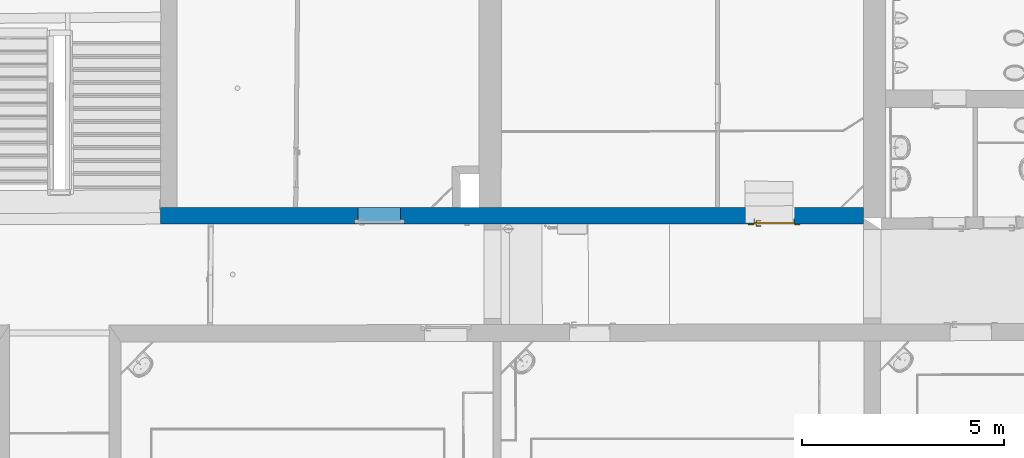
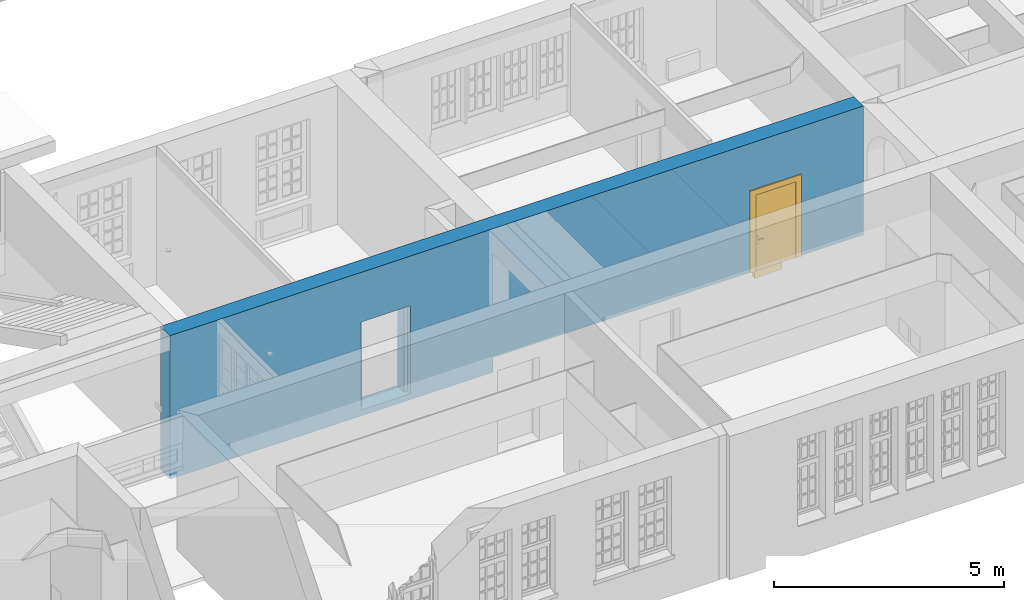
# One storey, part 61 of 158: 1 door, 1 wall, 2 openings.
"""IFC2X3 building model written with IfcOpenShell, lengths in metres."""

from ifc_helpers import new_model, entity, si_unit, converted_unit, derived_unit, money_unit, direction, frame, origin_with_axes, origin_2d_with_axis, place, context, subcontext, project, spatial, polyline, rectangle, outline, extrude, boolean, faceted_brep, material, type_object, element, fill, save


model = new_model("IFC2X3")

# Units and contexts
model_context = context("Model", 3, precision=1e-05, world=origin_with_axes(), true_north=direction((0.0, 1.0)))
body_context = subcontext(model_context, "Body", "Model", "MODEL_VIEW")
ifc_project = project(units=[si_unit("LENGTHUNIT", "METRE"), si_unit("AREAUNIT", "SQUARE_METRE"), si_unit("VOLUMEUNIT", "CUBIC_METRE"), converted_unit("PLANEANGLEUNIT", "DEGREE", entity("IfcPlaneAngleMeasure", 0.0174532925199), si_unit("PLANEANGLEUNIT", "RADIAN"), dimensions=[0, 0, 0, 0, 0, 0, 0]), money_unit("EUR"), converted_unit("TIMEUNIT", "Year", entity("IfcTimeMeasure", 31556926.0), si_unit("TIMEUNIT", "SECOND"), dimensions=[0, 0, 1, 0, 0, 0, 0]), si_unit("MASSUNIT", "GRAM", prefix="KILO"), si_unit("THERMODYNAMICTEMPERATUREUNIT", "DEGREE_CELSIUS"), si_unit("LUMINOUSINTENSITYUNIT", "LUMEN"), si_unit("ENERGYUNIT", "JOULE", prefix="MEGA"), derived_unit("THERMALCONDUCTANCEUNIT", [(si_unit("POWERUNIT", "WATT"), 1), (si_unit("LENGTHUNIT", "METRE"), -1), (si_unit("THERMODYNAMICTEMPERATUREUNIT", "KELVIN"), -1)]), derived_unit("SPECIFICHEATCAPACITYUNIT", [(si_unit("ENERGYUNIT", "JOULE"), 1), (si_unit("MASSUNIT", "GRAM", prefix="KILO"), -1), (si_unit("THERMODYNAMICTEMPERATUREUNIT", "KELVIN"), -1)]), derived_unit("MASSDENSITYUNIT", [(si_unit("MASSUNIT", "GRAM", prefix="KILO"), 1), (si_unit("VOLUMEUNIT", "CUBIC_METRE"), -1)])], contexts=[model_context])

# Site, building, storey
site_placement = place(None, origin_with_axes())
site = spatial("IfcSite", under=ifc_project, at=site_placement, Name="Gelände", CompositionType="ELEMENT")
building_placement = place(site_placement, origin_with_axes())
building = spatial("IfcBuilding", under=site, at=building_placement, Name="Gebäude", CompositionType="ELEMENT")
storey_placement = place(building_placement, origin_with_axes())
storey = spatial("IfcBuildingStorey", under=building, at=storey_placement, Name="ERDGESCHOSS", CompositionType="ELEMENT", Elevation=0.0)

# Wall, openings, door
ifc_material = material(Name="05_ALLGEMEIN - TRAGENDE BAUTEILE")
wall_type = type_object("IfcWallType", Name="05_ALLGEMEIN - TRAGENDE BAUTEILE 415", PredefinedType="ELEMENTEDWALL")
wall_placement = place(storey_placement, frame((-4.46533827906, 19.2762494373, -0.21), z_axis=(0.0, 0.0, 1.0), x_axis=(0.999999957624, 0.000291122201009, 0.0)))
wall = element("IfcWall", 1, at=wall_placement, inside=storey, type_object=wall_type, material=ifc_material, Name="Wand-038", ObjectType="ELEMENTEDWALL", context=body_context, shape_type="CSG", body=[
    boolean("DIFFERENCE", boolean("DIFFERENCE", extrude(outline(polyline([(-0.410000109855, 0.0), (17.5556844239, 0.0), (17.5556844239, 0.414615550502), (-0.410000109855, 0.414615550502), (-0.410000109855, 0.0)])), origin_with_axes(), (0.0, 0.0, 1.0), 3.81), faceted_brep([(-0.409766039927, 0.319751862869, 3.81), (-0.409696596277, 0.414615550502, 3.81), (-0.410000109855, 0.414615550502, 3.81), (-0.410000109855, 0.0, 3.81), (-0.40959077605, 0.285260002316, 3.81), (-0.409696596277, 0.414615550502, 0.0), (-0.409766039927, 0.319751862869, 3.56149033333), (-0.409791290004, 0.285258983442, 3.56149033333), (-0.409791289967, 0.285258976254, 3.42), (-0.410000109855, 0.0, 3.42), (-0.410000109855, 0.0, 0.0), (-0.410000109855, 0.414615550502, 0.0), (-0.409590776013, 0.285259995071, 3.42), (-0.40959077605, 0.285260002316, 3.56149033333)], [[[0, 1, 2, 3, 4]], [[5, 1, 0, 6, 7, 8, 9, 10]], [[1, 5, 11, 2]], [[9, 3, 2, 11, 10]], [[4, 3, 9, 12, 13]], [[0, 4, 13, 6]], [[13, 7, 6]], [[8, 7, 13, 12]], [[8, 12, 9]], [[5, 10, 11]]])), faceted_brep([(17.005684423, 0.414615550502, 3.81), (17.0056598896, 0.0, 3.81), (17.5556844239, 0.0, 3.81), (17.5556844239, 0.414615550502, 3.81), (17.0056598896, 0.0, 0.39), (17.005684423, 0.414615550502, 0.39), (7.70358417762, 0.0, 0.39), (7.70358417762, 0.0, 0.0), (17.5556844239, 0.0, 0.0), (17.5556844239, 0.414615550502, 0.0), (7.70345066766, 0.414615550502, 0.0), (7.70345066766, 0.414615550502, 0.39), (17.0056598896, 0.414615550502, 0.39)], [[[0, 1, 2, 3]], [[4, 1, 0, 5]], [[6, 7, 8, 2, 1, 4]], [[2, 8, 9, 3]], [[5, 0, 3, 9, 10, 11, 12]], [[6, 4, 5, 12, 11]], [[7, 6, 11, 10]], [[7, 10, 9, 8]]])),
])
opening_1_placement = place(wall_placement, frame((14.7914321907, 0.0, 0.166246), z_axis=(0.0, 0.0, 1.0), x_axis=(1.0, 0.0, 0.0)))
opening_1 = element("IfcOpeningElement", 2, at=opening_1_placement, cuts=wall, Name="Tür-022", context=body_context, shape_type="SweptSolid", body=[
    extrude(rectangle(XDim=1.00454069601, YDim=2.250558, at=origin_2d_with_axis()), frame((0.0, 0.414615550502, 1.125279), z_axis=(0.0, 1.0, 0.0), x_axis=(1.0, 0.0, 0.0)), (0.0, 0.0, -1.0), 1.24384665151),
])
opening_2_placement = place(wall_placement, frame((5.00892276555, 0.0, 0.156249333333), z_axis=(0.0, 0.0, 1.0), x_axis=(1.0, 0.0, 0.0)))
element("IfcOpeningElement", 3, at=opening_2_placement, cuts=wall, Name="Tür-022", context=body_context, shape_type="SweptSolid", body=[
    extrude(rectangle(XDim=1.05907517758, YDim=2.24387033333, at=origin_2d_with_axis()), frame((0.0, 0.12, 1.12193516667), z_axis=(0.0, 1.0, 0.0), x_axis=(1.0, 0.0, 0.0)), (0.0, 0.0, 1.0), 0.709231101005),
    extrude(rectangle(XDim=1.23907517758, YDim=2.33387033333, at=origin_2d_with_axis()), frame((0.0, 0.03, 1.16693516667), z_axis=(0.0, -1.0, 0.0), x_axis=(1.0, 0.0, 0.0)), (0.0, 0.0, -1.0), 0.09),
    extrude(rectangle(XDim=1.23907517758, YDim=2.33387033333, at=origin_2d_with_axis()), frame((0.0, 0.03, 1.16693516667), z_axis=(0.0, -1.0, 0.0), x_axis=(1.0, 0.0, 0.0)), (0.0, 0.0, 1.0), 0.444615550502),
])
door_style = type_object("IfcDoorStyle", Name="Blockrahmentür 1-Fl 25", ConstructionType="NOTDEFINED", OperationType="SINGLE_SWING_LEFT", ParameterTakesPrecedence=False, Sizeable=False)
door_placement = place(opening_1_placement, frame((0.487270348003, 0.0, 0.0), z_axis=(0.0, 0.0, 1.0), x_axis=(-1.0, 0.0, 0.0)))
door = element("IfcDoor", 4, at=door_placement, inside=storey, type_object=door_style, Name="Tür-022", ObjectType="NOTDEFINED", OverallHeight=2.25056, OverallWidth=1.00454, context=body_context, shape_type="Brep", body=[
    faceted_brep([(0.974540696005, -0.14, 0.188754), (0.974540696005, -0.035, 0.188754), (0.974540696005, -0.035, 0.0), (0.974540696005, -0.14, 0.0), (0.989540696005, -0.035, 0.188754), (0.989540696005, -0.14, 0.188754), (0.989540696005, -0.035, 0.0), (0.989540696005, -0.14, 0.0)], [[[0, 1, 2, 3]], [[4, 1, 0, 5]], [[1, 4, 6, 2]], [[6, 7, 3, 2]], [[5, 0, 3, 7]], [[4, 5, 7, 6]]]),
    faceted_brep([(0.989540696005, 0.03, 0.223754), (0.989540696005, 0.0, 0.223754), (0.989540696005, 0.0, 2.250558), (0.989540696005, 0.03, 2.250558), (1.13454069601, 0.0, 0.223754), (1.13454069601, 0.03, 0.223754), (-0.16, 0.0, 0.223754), (-0.015, 0.0, 0.223754), (-0.015, 0.0, 2.250558), (1.13454069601, 0.0, 2.395558), (-0.16, 0.0, 2.395558), (-0.015, 0.03, 2.250558), (-0.015, 0.03, 0.223754), (-0.16, 0.03, 0.223754), (-0.16, 0.03, 2.395558), (1.13454069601, 0.03, 2.395558)], [[[0, 1, 2, 3]], [[4, 1, 0, 5]], [[6, 7, 8, 2, 1, 4, 9, 10]], [[3, 2, 8, 11]], [[12, 13, 14, 15, 5, 0, 3, 11]], [[4, 5, 15, 9]], [[7, 6, 13, 12]], [[7, 12, 11, 8]], [[14, 10, 9, 15]], [[13, 6, 10, 14]]]),
    faceted_brep([(0.291932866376, -0.035, 0.188754), (0.291932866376, -0.035, 0.0), (0.989540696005, -0.035, 0.0), (0.989540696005, -0.035, 0.188754), (0.989540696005, -0.0262162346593, 0.188754), (0.989540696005, -0.0262162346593, 0.0)], [[[0, 1, 2, 3]], [[1, 0, 4, 5]], [[1, 5, 2]], [[4, 3, 2, 5]], [[0, 3, 4]]]),
    faceted_brep([(0.0, -0.035, 0.223754), (-0.015, -0.035, 0.223754), (-0.015, -0.035, 2.250558), (0.989540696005, -0.035, 2.250558), (0.989540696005, -0.035, 0.223754), (0.974540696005, -0.035, 0.223754), (0.974540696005, -0.035, 2.235558), (0.0, -0.035, 2.235558), (-0.015, -0.14, 0.223754), (0.0, -0.14, 0.223754), (-0.015, -0.14, 2.250558), (0.989540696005, -0.14, 2.250558), (0.989540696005, -0.14, 0.223754), (0.974540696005, -0.14, 0.223754), (0.974540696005, -0.14, 2.235558), (0.0, -0.14, 2.235558)], [[[0, 1, 2, 3, 4, 5, 6, 7]], [[8, 1, 0, 9]], [[1, 8, 10, 2]], [[2, 10, 11, 3]], [[12, 4, 3, 11]], [[13, 5, 4, 12]], [[5, 13, 14, 6]], [[6, 14, 15, 7]], [[9, 0, 7, 15]], [[8, 9, 15, 14, 13, 12, 11, 10]]]),
    faceted_brep([(0.989540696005, 0.002, 0.223754), (-0.015, 0.002, 0.223754), (-0.015, 0.002, 2.250558), (0.989540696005, 0.002, 2.250558), (-0.015, -0.035, 0.223754), (0.989540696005, -0.035, 0.223754), (-0.015, -0.035, 2.250558), (0.989540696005, -0.035, 2.250558)], [[[0, 1, 2, 3]], [[4, 1, 0, 5]], [[1, 4, 6, 2]], [[3, 2, 6, 7]], [[5, 0, 3, 7]], [[4, 5, 7, 6]]]),
    faceted_brep([(0.934242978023, -0.075, 1.05647213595), (0.934242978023, -0.055, 1.05647213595), (0.929540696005, -0.055, 1.058), (0.929540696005, -0.075, 1.058), (0.937149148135, -0.075, 1.05247213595), (0.937149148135, -0.055, 1.05247213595), (0.935418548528, -0.053, 1.05809016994), (0.929540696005, -0.053, 1.06), (0.924838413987, -0.055, 1.05647213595), (0.924838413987, -0.075, 1.05647213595), (0.921932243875, -0.075, 1.05247213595), (0.921932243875, -0.075, 1.04752786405), (0.924838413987, -0.075, 1.04352786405), (0.929540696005, -0.075, 1.042), (0.934242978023, -0.075, 1.04352786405), (0.937149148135, -0.075, 1.04752786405), (0.937149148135, -0.055, 1.04752786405), (0.939051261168, -0.053, 1.05309016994), (0.935418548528, -0.045, 1.05809016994), (0.929540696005, -0.045, 1.06), (0.923662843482, -0.053, 1.05809016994), (0.921932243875, -0.055, 1.05247213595), (0.921932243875, -0.055, 1.04752786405), (0.924838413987, -0.055, 1.04352786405), (0.929540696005, -0.055, 1.042), (0.934242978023, -0.055, 1.04352786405), (0.939051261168, -0.053, 1.04690983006), (0.939051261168, -0.045, 1.05309016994), (0.939051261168, -0.045, 1.04690983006), (0.935418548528, -0.045, 1.04190983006), (0.929540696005, -0.045, 1.04), (0.923662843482, -0.045, 1.04190983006), (0.920030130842, -0.045, 1.04690983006), (0.920030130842, -0.045, 1.05309016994), (0.923662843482, -0.045, 1.05809016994), (0.920030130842, -0.053, 1.05309016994), (0.920030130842, -0.053, 1.04690983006), (0.923662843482, -0.053, 1.04190983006), (0.929540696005, -0.053, 1.04), (0.935418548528, -0.053, 1.04190983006)], [[[0, 1, 2, 3]], [[4, 5, 1, 0]], [[1, 6, 7, 2]], [[3, 2, 8, 9]], [[3, 9, 10, 11, 12, 13, 14, 15, 4, 0]], [[15, 16, 5, 4]], [[5, 17, 6, 1]], [[6, 18, 19, 7]], [[2, 7, 20, 8]], [[9, 8, 21, 10]], [[10, 21, 22, 11]], [[11, 22, 23, 12]], [[12, 23, 24, 13]], [[13, 24, 25, 14]], [[14, 25, 16, 15]], [[16, 26, 17, 5]], [[17, 27, 18, 6]], [[19, 18, 27, 28, 29, 30, 31, 32, 33, 34]], [[7, 19, 34, 20]], [[8, 20, 35, 21]], [[21, 35, 36, 22]], [[22, 36, 37, 23]], [[23, 37, 38, 24]], [[24, 38, 39, 25]], [[25, 39, 26, 16]], [[26, 28, 27, 17]], [[39, 29, 28, 26]], [[38, 30, 29, 39]], [[37, 31, 30, 38]], [[36, 32, 31, 37]], [[35, 33, 32, 36]], [[20, 34, 33, 35]]]),
    faceted_brep([(0.91735231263, -0.045, 1.11759695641), (0.912740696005, -0.045, 1.11), (0.907040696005, -0.045, 1.11), (0.907040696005, -0.045, 0.89), (0.912740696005, -0.045, 0.89), (0.91735231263, -0.045, 0.882403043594), (0.92509714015, -0.045, 0.878044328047), (0.93398425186, -0.045, 0.878044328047), (0.94172907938, -0.045, 0.882403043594), (0.946340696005, -0.045, 0.89), (0.952040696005, -0.045, 0.89), (0.952040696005, -0.045, 1.11), (0.946340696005, -0.045, 1.11), (0.94172907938, -0.045, 1.11759695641), (0.93398425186, -0.045, 1.12195567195), (0.92509714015, -0.045, 1.12195567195), (0.929540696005, -0.045, 0.967425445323), (0.93491587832, -0.045, 0.965143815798), (0.937008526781, -0.045, 0.959692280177), (0.934540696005, -0.045, 0.9544), (0.934540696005, -0.045, 0.9375), (0.933076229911, -0.045, 0.933964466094), (0.929540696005, -0.045, 0.9325), (0.926005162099, -0.045, 0.933964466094), (0.924540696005, -0.045, 0.9375), (0.924540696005, -0.045, 0.9544), (0.922072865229, -0.045, 0.959692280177), (0.92416551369, -0.045, 0.965143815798), (0.91735231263, -0.035, 1.11759695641), (0.912740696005, -0.035, 1.11), (0.907040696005, -0.035, 1.11), (0.907040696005, -0.035, 0.89), (0.912740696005, -0.035, 0.89), (0.91735231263, -0.035, 0.882403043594), (0.92509714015, -0.035, 0.878044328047), (0.93398425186, -0.035, 0.878044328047), (0.94172907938, -0.035, 0.882403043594), (0.946340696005, -0.035, 0.89), (0.952040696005, -0.035, 0.89), (0.952040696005, -0.035, 1.11), (0.946340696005, -0.035, 1.11), (0.94172907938, -0.035, 1.11759695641), (0.93398425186, -0.035, 1.12195567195), (0.92509714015, -0.035, 1.12195567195), (0.929540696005, -0.035, 0.967425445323), (0.93491587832, -0.035, 0.965143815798), (0.937008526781, -0.035, 0.959692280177), (0.934540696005, -0.035, 0.9544), (0.934540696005, -0.035, 0.9375), (0.933076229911, -0.035, 0.933964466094), (0.929540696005, -0.035, 0.9325), (0.926005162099, -0.035, 0.933964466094), (0.924540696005, -0.035, 0.9375), (0.924540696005, -0.035, 0.9544), (0.922072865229, -0.035, 0.959692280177), (0.92416551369, -0.035, 0.965143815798)], [[[0, 1, 2, 3, 4, 5, 6, 7, 8, 9, 10, 11, 12, 13, 14, 15], [16, 17, 18, 19, 20, 21, 22, 23, 24, 25, 26, 27]], [[0, 28, 29, 1]], [[1, 29, 30, 2]], [[2, 30, 31, 3]], [[3, 31, 32, 4]], [[4, 32, 33, 5]], [[5, 33, 34, 6]], [[6, 34, 35, 7]], [[7, 35, 36, 8]], [[8, 36, 37, 9]], [[9, 37, 38, 10]], [[10, 38, 39, 11]], [[11, 39, 40, 12]], [[12, 40, 41, 13]], [[13, 41, 42, 14]], [[14, 42, 43, 15]], [[15, 43, 28, 0]], [[16, 44, 45, 17]], [[17, 45, 46, 18]], [[18, 46, 47, 19]], [[47, 48, 20, 19]], [[21, 20, 48, 49]], [[22, 21, 49, 50]], [[23, 22, 50, 51]], [[24, 23, 51, 52]], [[25, 24, 52, 53]], [[25, 53, 54, 26]], [[26, 54, 55, 27]], [[27, 55, 44, 16]], [[32, 31, 30, 29, 28, 43, 42, 41, 40, 39, 38, 37, 36, 35, 34, 33], [46, 45, 44, 55, 54, 53, 52, 51, 50, 49, 48, 47]]]),
    faceted_brep([(0.815287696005, -0.075, 1.057158), (0.815286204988, -0.075, 1.05719388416), (0.815286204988, -0.09, 1.05719388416), (0.815287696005, -0.09, 1.057158), (0.842315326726, -0.075, 1.06432652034), (0.870143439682, -0.075, 1.06706086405), (0.898049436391, -0.075, 1.06529002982), (0.925308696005, -0.075, 1.05906), (0.931711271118, -0.075, 1.05976125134), (0.937213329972, -0.075, 1.05641280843), (0.939532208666, -0.075, 1.05040385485), (0.937705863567, -0.075, 1.04422735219), (0.93249199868, -0.075, 1.04044577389), (0.926053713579, -0.075, 1.04062800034), (0.921062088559, -0.075, 1.04469843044), (0.921082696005, -0.075, 1.044666), (0.895793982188, -0.075, 1.05019878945), (0.869951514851, -0.075, 1.05171460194), (0.844189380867, -0.075, 1.04917624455), (0.819139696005, -0.075, 1.042646), (0.813596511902, -0.075, 1.04356849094), (0.810234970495, -0.075, 1.04807159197), (0.81092654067, -0.075, 1.05364829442), (0.81092654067, -0.09, 1.05364829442), (0.810234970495, -0.09, 1.04807159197), (0.813596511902, -0.09, 1.04356849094), (0.819139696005, -0.09, 1.042646), (0.844189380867, -0.09, 1.04917624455), (0.869951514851, -0.09, 1.05171460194), (0.895793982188, -0.09, 1.05019878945), (0.921082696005, -0.09, 1.044666), (0.921062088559, -0.09, 1.04469843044), (0.926053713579, -0.09, 1.04062800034), (0.93249199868, -0.09, 1.04044577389), (0.937705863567, -0.09, 1.04422735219), (0.939532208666, -0.09, 1.05040385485), (0.937213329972, -0.09, 1.05641280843), (0.931711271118, -0.09, 1.05976125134), (0.925308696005, -0.09, 1.05906), (0.898049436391, -0.09, 1.06529002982), (0.870143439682, -0.09, 1.06706086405), (0.842315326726, -0.09, 1.06432652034)], [[[0, 1, 2, 3]], [[0, 4, 5, 6, 7, 8, 9, 10, 11, 12, 13, 14, 15, 16, 17, 18, 19, 20, 21, 22, 1]], [[1, 22, 23, 2]], [[3, 2, 23, 24, 25, 26, 27, 28, 29, 30, 31, 32, 33, 34, 35, 36, 37, 38, 39, 40, 41]], [[4, 0, 3, 41]], [[5, 4, 41, 40]], [[6, 5, 40, 39]], [[7, 6, 39, 38]], [[8, 7, 38, 37]], [[9, 8, 37, 36]], [[10, 9, 36, 35]], [[11, 10, 35, 34]], [[12, 11, 34, 33]], [[13, 12, 33, 32]], [[14, 13, 32, 31]], [[15, 14, 31, 30]], [[16, 15, 30, 29]], [[17, 16, 29, 28]], [[18, 17, 28, 27]], [[19, 18, 27, 26]], [[20, 19, 26, 25]], [[21, 20, 25, 24]], [[22, 21, 24, 23]]]),
    faceted_brep([(0.934242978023, 0.042, 1.05647213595), (0.929540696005, 0.042, 1.058), (0.929540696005, 0.022, 1.058), (0.934242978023, 0.022, 1.05647213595), (0.937149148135, 0.042, 1.05247213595), (0.937149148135, 0.042, 1.04752786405), (0.934242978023, 0.042, 1.04352786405), (0.929540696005, 0.042, 1.042), (0.924838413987, 0.042, 1.04352786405), (0.921932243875, 0.042, 1.04752786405), (0.921932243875, 0.042, 1.05247213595), (0.924838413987, 0.042, 1.05647213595), (0.924838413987, 0.022, 1.05647213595), (0.929540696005, 0.02, 1.06), (0.935418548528, 0.02, 1.05809016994), (0.937149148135, 0.022, 1.05247213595), (0.937149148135, 0.022, 1.04752786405), (0.934242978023, 0.022, 1.04352786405), (0.929540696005, 0.022, 1.042), (0.924838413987, 0.022, 1.04352786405), (0.921932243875, 0.022, 1.04752786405), (0.921932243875, 0.022, 1.05247213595), (0.923662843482, 0.02, 1.05809016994), (0.929540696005, 0.012, 1.06), (0.935418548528, 0.012, 1.05809016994), (0.939051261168, 0.02, 1.05309016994), (0.939051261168, 0.02, 1.04690983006), (0.935418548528, 0.02, 1.04190983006), (0.929540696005, 0.02, 1.04), (0.923662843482, 0.02, 1.04190983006), (0.920030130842, 0.02, 1.04690983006), (0.920030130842, 0.02, 1.05309016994), (0.923662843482, 0.012, 1.05809016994), (0.920030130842, 0.012, 1.05309016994), (0.920030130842, 0.012, 1.04690983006), (0.923662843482, 0.012, 1.04190983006), (0.929540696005, 0.012, 1.04), (0.935418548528, 0.012, 1.04190983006), (0.939051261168, 0.012, 1.04690983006), (0.939051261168, 0.012, 1.05309016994)], [[[0, 1, 2, 3]], [[1, 0, 4, 5, 6, 7, 8, 9, 10, 11]], [[1, 11, 12, 2]], [[3, 2, 13, 14]], [[4, 0, 3, 15]], [[5, 4, 15, 16]], [[6, 5, 16, 17]], [[7, 6, 17, 18]], [[8, 7, 18, 19]], [[9, 8, 19, 20]], [[10, 9, 20, 21]], [[11, 10, 21, 12]], [[2, 12, 22, 13]], [[14, 13, 23, 24]], [[15, 3, 14, 25]], [[16, 15, 25, 26]], [[17, 16, 26, 27]], [[18, 17, 27, 28]], [[19, 18, 28, 29]], [[20, 19, 29, 30]], [[21, 20, 30, 31]], [[12, 21, 31, 22]], [[13, 22, 32, 23]], [[23, 32, 33, 34, 35, 36, 37, 38, 39, 24]], [[25, 14, 24, 39]], [[26, 25, 39, 38]], [[27, 26, 38, 37]], [[28, 27, 37, 36]], [[29, 28, 36, 35]], [[30, 29, 35, 34]], [[31, 30, 34, 33]], [[22, 31, 33, 32]]]),
    faceted_brep([(0.91735231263, 0.002, 1.11759695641), (0.912740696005, 0.002, 1.11), (0.907040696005, 0.002, 1.11), (0.907040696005, 0.002, 0.89), (0.912740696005, 0.002, 0.89), (0.91735231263, 0.002, 0.882403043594), (0.92509714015, 0.002, 0.878044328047), (0.93398425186, 0.002, 0.878044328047), (0.94172907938, 0.002, 0.882403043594), (0.946340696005, 0.002, 0.89), (0.952040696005, 0.002, 0.89), (0.952040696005, 0.002, 1.11), (0.946340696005, 0.002, 1.11), (0.94172907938, 0.002, 1.11759695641), (0.93398425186, 0.002, 1.12195567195), (0.92509714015, 0.002, 1.12195567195), (0.929540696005, 0.002, 0.967425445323), (0.93491587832, 0.002, 0.965143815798), (0.937008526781, 0.002, 0.959692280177), (0.934540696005, 0.002, 0.9544), (0.934540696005, 0.002, 0.9375), (0.933076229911, 0.002, 0.933964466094), (0.929540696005, 0.002, 0.9325), (0.926005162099, 0.002, 0.933964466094), (0.924540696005, 0.002, 0.9375), (0.924540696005, 0.002, 0.9544), (0.922072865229, 0.002, 0.959692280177), (0.92416551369, 0.002, 0.965143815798), (0.91735231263, 0.012, 1.11759695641), (0.912740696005, 0.012, 1.11), (0.907040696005, 0.012, 1.11), (0.907040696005, 0.012, 0.89), (0.912740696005, 0.012, 0.89), (0.91735231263, 0.012, 0.882403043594), (0.92509714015, 0.012, 0.878044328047), (0.93398425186, 0.012, 0.878044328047), (0.94172907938, 0.012, 0.882403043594), (0.946340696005, 0.012, 0.89), (0.952040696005, 0.012, 0.89), (0.952040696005, 0.012, 1.11), (0.946340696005, 0.012, 1.11), (0.94172907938, 0.012, 1.11759695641), (0.93398425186, 0.012, 1.12195567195), (0.92509714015, 0.012, 1.12195567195), (0.929540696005, 0.012, 0.967425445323), (0.93491587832, 0.012, 0.965143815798), (0.937008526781, 0.012, 0.959692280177), (0.934540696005, 0.012, 0.9544), (0.934540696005, 0.012, 0.9375), (0.933076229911, 0.012, 0.933964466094), (0.929540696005, 0.012, 0.9325), (0.926005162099, 0.012, 0.933964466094), (0.924540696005, 0.012, 0.9375), (0.924540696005, 0.012, 0.9544), (0.922072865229, 0.012, 0.959692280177), (0.92416551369, 0.012, 0.965143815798)], [[[0, 1, 2, 3, 4, 5, 6, 7, 8, 9, 10, 11, 12, 13, 14, 15], [16, 17, 18, 19, 20, 21, 22, 23, 24, 25, 26, 27]], [[28, 29, 1, 0]], [[29, 30, 2, 1]], [[30, 31, 3, 2]], [[31, 32, 4, 3]], [[32, 33, 5, 4]], [[33, 34, 6, 5]], [[34, 35, 7, 6]], [[35, 36, 8, 7]], [[36, 37, 9, 8]], [[37, 38, 10, 9]], [[38, 39, 11, 10]], [[39, 40, 12, 11]], [[40, 41, 13, 12]], [[41, 42, 14, 13]], [[42, 43, 15, 14]], [[43, 28, 0, 15]], [[16, 44, 45, 17]], [[17, 45, 46, 18]], [[18, 46, 47, 19]], [[47, 48, 20, 19]], [[21, 20, 48, 49]], [[22, 21, 49, 50]], [[23, 22, 50, 51]], [[24, 23, 51, 52]], [[25, 24, 52, 53]], [[25, 53, 54, 26]], [[26, 54, 55, 27]], [[27, 55, 44, 16]], [[32, 31, 30, 29, 28, 43, 42, 41, 40, 39, 38, 37, 36, 35, 34, 33], [46, 45, 44, 55, 54, 53, 52, 51, 50, 49, 48, 47]]]),
    faceted_brep([(0.815287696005, 0.042, 1.057158), (0.815287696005, 0.057, 1.057158), (0.815286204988, 0.057, 1.05719388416), (0.815286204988, 0.042, 1.05719388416), (0.842315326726, 0.042, 1.06432652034), (0.842315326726, 0.057, 1.06432652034), (0.870143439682, 0.057, 1.06706086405), (0.898049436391, 0.057, 1.06529002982), (0.925308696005, 0.057, 1.05906), (0.931711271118, 0.057, 1.05976125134), (0.937213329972, 0.057, 1.05641280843), (0.939532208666, 0.057, 1.05040385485), (0.937705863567, 0.057, 1.04422735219), (0.93249199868, 0.057, 1.04044577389), (0.926053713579, 0.057, 1.04062800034), (0.921062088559, 0.057, 1.04469843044), (0.921082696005, 0.057, 1.044666), (0.895793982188, 0.057, 1.05019878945), (0.869951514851, 0.057, 1.05171460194), (0.844189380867, 0.057, 1.04917624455), (0.819139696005, 0.057, 1.042646), (0.813596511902, 0.057, 1.04356849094), (0.810234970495, 0.057, 1.04807159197), (0.81092654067, 0.057, 1.05364829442), (0.81092654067, 0.042, 1.05364829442), (0.810234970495, 0.042, 1.04807159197), (0.813596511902, 0.042, 1.04356849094), (0.819139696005, 0.042, 1.042646), (0.844189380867, 0.042, 1.04917624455), (0.869951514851, 0.042, 1.05171460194), (0.895793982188, 0.042, 1.05019878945), (0.921082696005, 0.042, 1.044666), (0.921062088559, 0.042, 1.04469843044), (0.926053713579, 0.042, 1.04062800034), (0.93249199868, 0.042, 1.04044577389), (0.937705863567, 0.042, 1.04422735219), (0.939532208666, 0.042, 1.05040385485), (0.937213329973, 0.042, 1.05641280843), (0.931711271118, 0.042, 1.05976125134), (0.925308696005, 0.042, 1.05906), (0.898049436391, 0.042, 1.06529002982), (0.870143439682, 0.042, 1.06706086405)], [[[0, 1, 2, 3]], [[4, 5, 1, 0]], [[1, 5, 6, 7, 8, 9, 10, 11, 12, 13, 14, 15, 16, 17, 18, 19, 20, 21, 22, 23, 2]], [[3, 2, 23, 24]], [[0, 3, 24, 25, 26, 27, 28, 29, 30, 31, 32, 33, 34, 35, 36, 37, 38, 39, 40, 41, 4]], [[41, 6, 5, 4]], [[40, 7, 6, 41]], [[39, 8, 7, 40]], [[38, 9, 8, 39]], [[37, 10, 9, 38]], [[36, 11, 10, 37]], [[35, 12, 11, 36]], [[34, 13, 12, 35]], [[33, 14, 13, 34]], [[32, 15, 14, 33]], [[31, 16, 15, 32]], [[30, 17, 16, 31]], [[29, 18, 17, 30]], [[28, 19, 18, 29]], [[27, 20, 19, 28]], [[26, 21, 20, 27]], [[25, 22, 21, 26]], [[24, 23, 22, 25]]]),
])
fill(opening_1, door)

save(model, "model.ifc")
